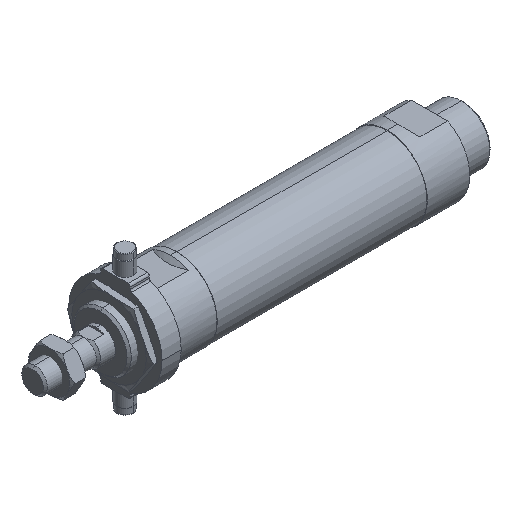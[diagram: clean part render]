
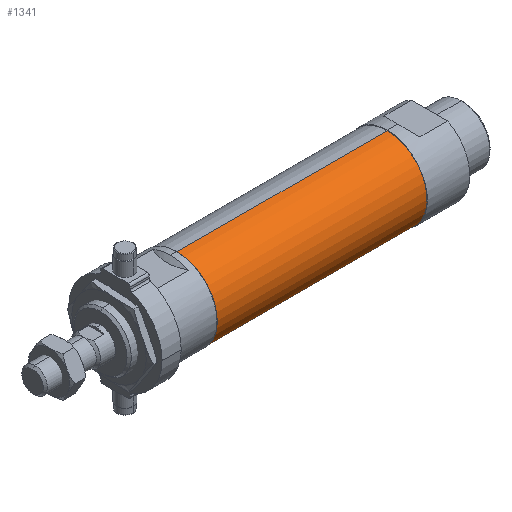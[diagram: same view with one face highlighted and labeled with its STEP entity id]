
A CAD part, isometric view. The second image highlights one B-rep face of the part: STEP entity #1341.
In plain terms, the highlighted cylindrical face has radius 18.8 mm (diameter 37.6 mm), a partial arc.
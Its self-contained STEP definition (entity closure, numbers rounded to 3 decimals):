
#12 = ORIENTED_EDGE ( 'NONE', *, *, #3209, .F. ) ;
#23 = AXIS2_PLACEMENT_3D ( 'NONE', #764, #1078, #1760 ) ;
#100 = DIRECTION ( 'NONE',  ( 0., 0., 1. ) ) ;
#478 = VERTEX_POINT ( 'NONE', #3099 ) ;
#541 = CIRCLE ( 'NONE', #4394, 18.8 ) ;
#670 = EDGE_CURVE ( 'NONE', #478, #972, #4581, .T. ) ;
#764 = CARTESIAN_POINT ( 'NONE',  ( 167., 0., 0. ) ) ;
#786 = DIRECTION ( 'NONE',  ( 0., 0., 1. ) ) ;
#861 = CARTESIAN_POINT ( 'NONE',  ( -1.784, 0., 18.8 ) ) ;
#972 = VERTEX_POINT ( 'NONE', #3792 ) ;
#1043 = EDGE_CURVE ( 'NONE', #2950, #478, #3213, .T. ) ;
#1078 = DIRECTION ( 'NONE',  ( -1., 0., 0. ) ) ;
#1334 = CARTESIAN_POINT ( 'NONE',  ( 167., 0., -18.8 ) ) ;
#1340 = EDGE_LOOP ( 'NONE', ( #12, #3496, #2357, #2761 ) ) ;
#1341 = ADVANCED_FACE ( 'NONE', ( #4437 ), #2228, .T. ) ;
#1515 = DIRECTION ( 'NONE',  ( -1., 0., 0. ) ) ;
#1610 = CARTESIAN_POINT ( 'NONE',  ( -1.784, 0., 0. ) ) ;
#1645 = CARTESIAN_POINT ( 'NONE',  ( 68., 0., -18.8 ) ) ;
#1666 = DIRECTION ( 'NONE',  ( -1., 0., 0. ) ) ;
#1709 = VECTOR ( 'NONE', #2395, 1000. ) ;
#1760 = DIRECTION ( 'NONE',  ( 0., 0., 1. ) ) ;
#1763 = CARTESIAN_POINT ( 'NONE',  ( -1.784, 0., -18.8 ) ) ;
#2228 = CYLINDRICAL_SURFACE ( 'NONE', #2822, 18.8 ) ;
#2357 = ORIENTED_EDGE ( 'NONE', *, *, #670, .T. ) ;
#2390 = DIRECTION ( 'NONE',  ( -1., 0., 0. ) ) ;
#2395 = DIRECTION ( 'NONE',  ( -1., 0., 0. ) ) ;
#2761 = ORIENTED_EDGE ( 'NONE', *, *, #4436, .F. ) ;
#2822 = AXIS2_PLACEMENT_3D ( 'NONE', #1610, #2390, #786 ) ;
#2950 = VERTEX_POINT ( 'NONE', #1334 ) ;
#3099 = CARTESIAN_POINT ( 'NONE',  ( 167., 0., 18.8 ) ) ;
#3118 = VECTOR ( 'NONE', #1515, 1000. ) ;
#3209 = EDGE_CURVE ( 'NONE', #2950, #4120, #3507, .T. ) ;
#3213 = CIRCLE ( 'NONE', #23, 18.8 ) ;
#3496 = ORIENTED_EDGE ( 'NONE', *, *, #1043, .T. ) ;
#3507 = LINE ( 'NONE', #1763, #3118 ) ;
#3575 = CARTESIAN_POINT ( 'NONE',  ( 68., 0., 0. ) ) ;
#3792 = CARTESIAN_POINT ( 'NONE',  ( 68., 0., 18.8 ) ) ;
#4120 = VERTEX_POINT ( 'NONE', #1645 ) ;
#4394 = AXIS2_PLACEMENT_3D ( 'NONE', #3575, #1666, #100 ) ;
#4436 = EDGE_CURVE ( 'NONE', #4120, #972, #541, .T. ) ;
#4437 = FACE_OUTER_BOUND ( 'NONE', #1340, .T. ) ;
#4581 = LINE ( 'NONE', #861, #1709 ) ;
